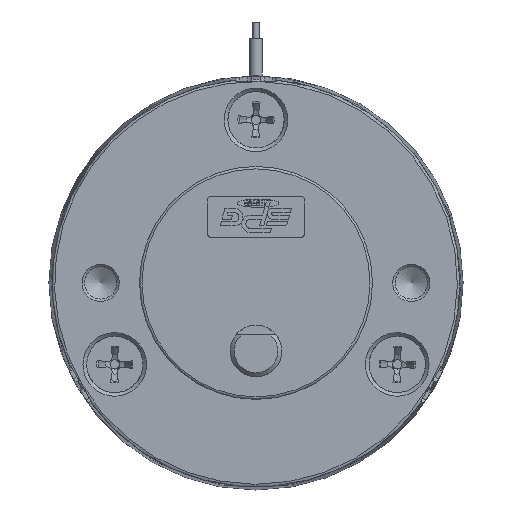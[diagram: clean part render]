
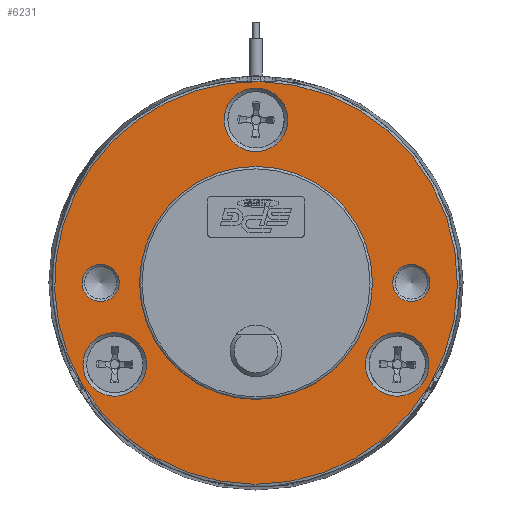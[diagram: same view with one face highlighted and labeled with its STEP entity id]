
A CAD part, front view. The second image highlights one B-rep face of the part: STEP entity #6231.
In plain terms, the highlighted planar face has unit normal (0, -1, 0).
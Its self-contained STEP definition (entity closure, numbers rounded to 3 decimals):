
#526=CARTESIAN_POINT('',(-1.149,19.05,34.27));
#527=VERTEX_POINT('',#526);
#528=CARTESIAN_POINT('',(-1.149,19.05,30.37));
#529=DIRECTION('',(0.0,1.0,0.0));
#530=DIRECTION('',(0.0,0.0,1.0));
#531=AXIS2_PLACEMENT_3D('',#528,#529,#530);
#532=CIRCLE('',#531,3.9);
#533=EDGE_CURVE('',#527,#527,#532,.T.);
#591=CARTESIAN_POINT('',(-21.847,19.05,-1.58));
#592=VERTEX_POINT('',#591);
#593=CARTESIAN_POINT('',(-18.469,19.05,0.37));
#594=DIRECTION('',(0.0,1.0,0.0));
#595=DIRECTION('',(-0.866,0.0,-0.5));
#596=AXIS2_PLACEMENT_3D('',#593,#594,#595);
#597=CIRCLE('',#596,3.9);
#598=EDGE_CURVE('',#592,#592,#597,.T.);
#656=CARTESIAN_POINT('',(19.549,19.05,-1.58));
#657=VERTEX_POINT('',#656);
#658=CARTESIAN_POINT('',(16.172,19.05,0.37));
#659=DIRECTION('',(0.0,1.0,0.0));
#660=DIRECTION('',(0.866,0.0,-0.5));
#661=AXIS2_PLACEMENT_3D('',#658,#659,#660);
#662=CIRCLE('',#661,3.9);
#663=EDGE_CURVE('',#657,#657,#662,.T.);
#5272=CARTESIAN_POINT('',(-22.543,19.05,-1.982));
#5273=VERTEX_POINT('',#5272);
#5274=CARTESIAN_POINT('',(-1.149,19.05,10.37));
#5275=DIRECTION('',(0.0,1.0,0.0));
#5276=DIRECTION('',(0.866,0.0,0.5));
#5277=AXIS2_PLACEMENT_3D('',#5274,#5275,#5276);
#5278=CIRCLE('',#5277,24.704);
#5279=EDGE_CURVE('',#5273,#5273,#5278,.T.);
#6064=CARTESIAN_POINT('',(13.139,19.05,10.37));
#6065=VERTEX_POINT('',#6064);
#6066=CARTESIAN_POINT('',(-1.149,19.05,10.37));
#6067=DIRECTION('',(0.0,1.0,0.0));
#6068=DIRECTION('',(-1.0,0.0,0.0));
#6069=AXIS2_PLACEMENT_3D('',#6066,#6067,#6068);
#6070=CIRCLE('',#6069,14.287);
#6071=EDGE_CURVE('',#6065,#6065,#6070,.T.);
#6165=CARTESIAN_POINT('',(20.182,19.05,10.37));
#6166=VERTEX_POINT('',#6165);
#6167=CARTESIAN_POINT('',(17.901,19.05,10.37));
#6168=DIRECTION('',(0.0,-1.0,0.0));
#6169=DIRECTION('',(-1.0,0.0,0.0));
#6170=AXIS2_PLACEMENT_3D('',#6167,#6168,#6169);
#6171=CIRCLE('',#6170,2.281);
#6172=EDGE_CURVE('',#6166,#6166,#6171,.T.);
#6197=CARTESIAN_POINT('',(-1.149,19.05,10.37));
#6198=DIRECTION('',(0.0,1.0,0.0));
#6199=DIRECTION('',(0.0,0.0,1.0));
#6200=AXIS2_PLACEMENT_3D('',#6197,#6198,#6199);
#6201=PLANE('',#6200);
#6202=ORIENTED_EDGE('',*,*,#5279,.F.);
#6203=EDGE_LOOP('',(#6202));
#6204=FACE_OUTER_BOUND('',#6203,.T.);
#6205=ORIENTED_EDGE('',*,*,#6172,.F.);
#6206=EDGE_LOOP('',(#6205));
#6207=FACE_BOUND('',#6206,.T.);
#6208=ORIENTED_EDGE('',*,*,#6071,.T.);
#6209=EDGE_LOOP('',(#6208));
#6210=FACE_BOUND('',#6209,.T.);
#6211=ORIENTED_EDGE('',*,*,#533,.T.);
#6212=EDGE_LOOP('',(#6211));
#6213=FACE_BOUND('',#6212,.T.);
#6214=ORIENTED_EDGE('',*,*,#598,.T.);
#6215=EDGE_LOOP('',(#6214));
#6216=FACE_BOUND('',#6215,.T.);
#6217=ORIENTED_EDGE('',*,*,#663,.T.);
#6218=EDGE_LOOP('',(#6217));
#6219=FACE_BOUND('',#6218,.T.);
#6220=CARTESIAN_POINT('',(-17.918,19.05,10.37));
#6221=VERTEX_POINT('',#6220);
#6222=CARTESIAN_POINT('',(-20.199,19.05,10.37));
#6223=DIRECTION('',(0.0,-1.0,0.0));
#6224=DIRECTION('',(-1.0,0.0,0.0));
#6225=AXIS2_PLACEMENT_3D('',#6222,#6223,#6224);
#6226=CIRCLE('',#6225,2.281);
#6227=EDGE_CURVE('',#6221,#6221,#6226,.T.);
#6228=ORIENTED_EDGE('',*,*,#6227,.F.);
#6229=EDGE_LOOP('',(#6228));
#6230=FACE_BOUND('',#6229,.T.);
#6231=ADVANCED_FACE('',(#6204,#6207,#6210,#6213,#6216,#6219,#6230),#6201,.F.);
